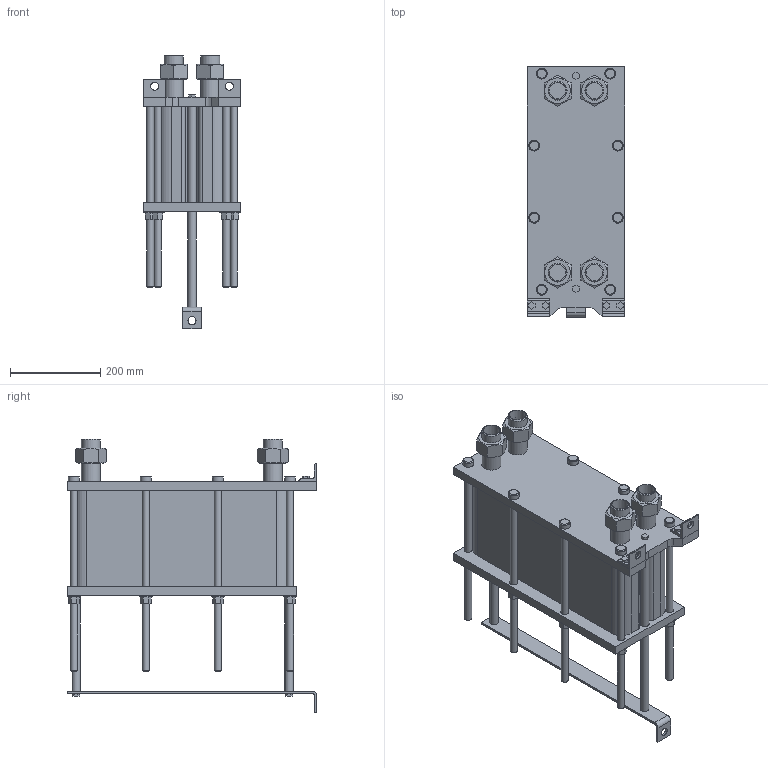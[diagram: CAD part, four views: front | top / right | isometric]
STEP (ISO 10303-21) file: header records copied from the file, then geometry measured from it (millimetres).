
FILE_DESCRIPTION(/* description */ (''),/* implementation_level */ '2;1');
FILE_NAME(/* name */ 'C:\Users\zhuro\Desktop\ENCO\TO\ЭН-004\ЭН-0,5-004-69-1.stp',/* time_stamp */ '2022-06-06T10:48:59+03:00',/* author */ ('zhuro'),/* organization */ (''),/* preprocessor_version */ 'ST-DEVELOPER v18.1',/* originating_system */ 'Autodesk Inventor 2022',/* authorisation */ '');
FILE_SCHEMA (('AUTOMOTIVE_DESIGN { 1 0 10303 214 3 1 1 }'));
Length unit declared in the file: millimetre
Products named in the file (1): ЭН-0,5-004-69-1
Bounding box: 216 x 555 x 608.2 mm (x, y, z)
Volume: 21687383.9 mm3; surface area: 1422000.6 mm2
Topology: 40 solids, 40 shells, 403 faces, 865 edges, 574 vertices
Faces by surface type: plane 272, cylinder 103, cone 28
Full cylindrical faces by diameter (mm): 10 x4, 16 x16, 18 x29, 20 x2, 24 x8, 28 x8, 36.3 x5, 42.3 x9
Entity records: 11137 total; most frequent: CARTESIAN_POINT 1939, DIRECTION 1879, ORIENTED_EDGE 1730, EDGE_CURVE 865, AXIS2_PLACEMENT_3D 658, VERTEX_POINT 574, LINE 563, VECTOR 563
